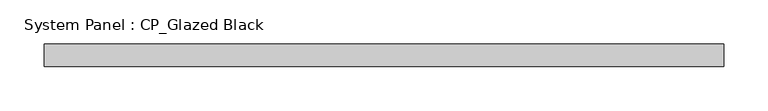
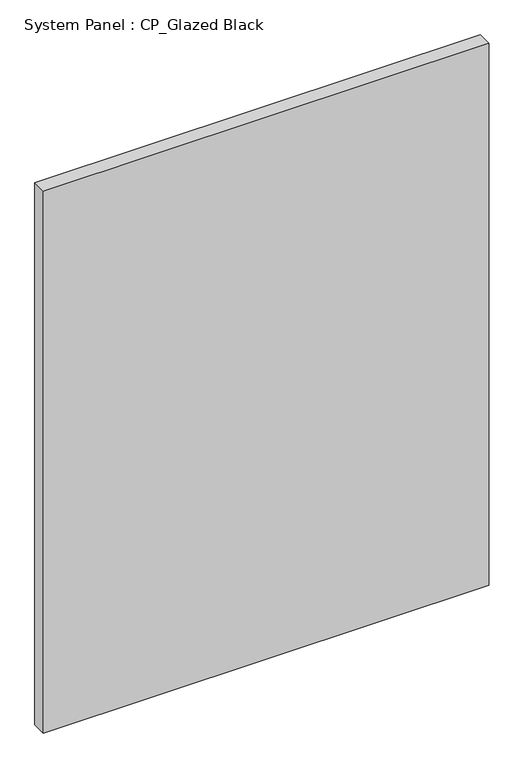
"""IFC4 building model written with IfcOpenShell, lengths in millimetres: plate geometry, System Panel : CP_Glazed Black."""

from ifc_helpers import new_model, si_unit, origin, origin_with_axes, place, context, project, spatial, polyline, outline, extrude, source, transform, mapped, element, save


def system_panel_cp_glazed_black_c733cfe4(model_context):
    return source(origin(), model_context, "Body", "SweptSolid", [
        extrude(outline(polyline([(384.175, 19.05), (-384.175, 19.05), (-384.175, 44.45), (384.175, 44.45), (384.175, 19.05)])), origin_with_axes(), (0.0, 0.0, 1.0), 987.425),
    ])


if __name__ == "__main__":
    model = new_model("IFC4")
    model_context = context("Model", 3, world=origin())
    ifc_project = project(units=[si_unit("LENGTHUNIT", "METRE", prefix="MILLI")], contexts=[model_context])
    site = spatial("IfcSite", under=ifc_project)
    building = spatial("IfcBuilding", under=site)
    placement = place(None, origin())
    system_panel_cp_glazed_black_shape = system_panel_cp_glazed_black_c733cfe4(model_context)
    element("IfcPlate", 1, ObjectType="System Panel : CP_Glazed Black", at=placement, inside=building, context=model_context, shape_type="MappedRepresentation", body=[
        mapped(system_panel_cp_glazed_black_shape, transform((0.0, 0.0, 0.0), x_axis=(1.0, 0.0, 0.0), y_axis=(0.0, 1.0, 0.0), z_axis=(0.0, 0.0, 1.0))),
    ])
    save(model, "model.ifc")
